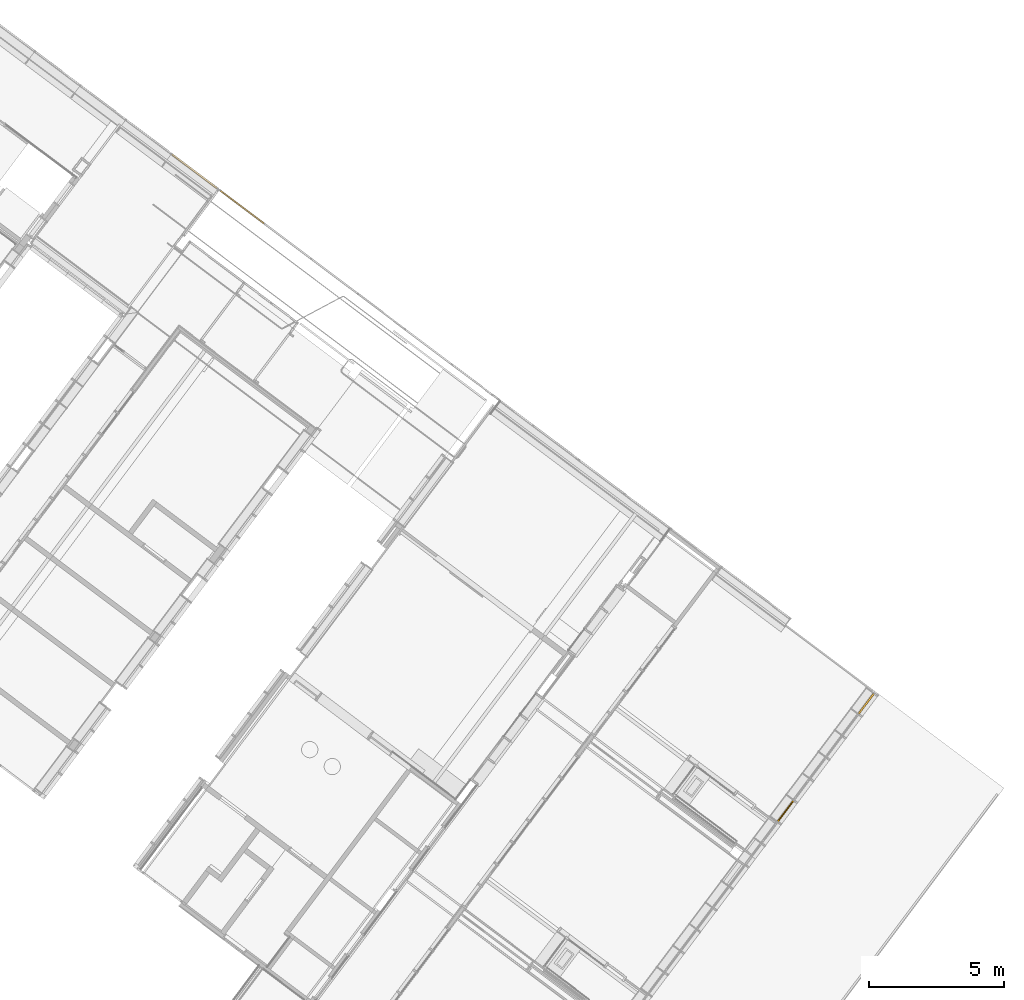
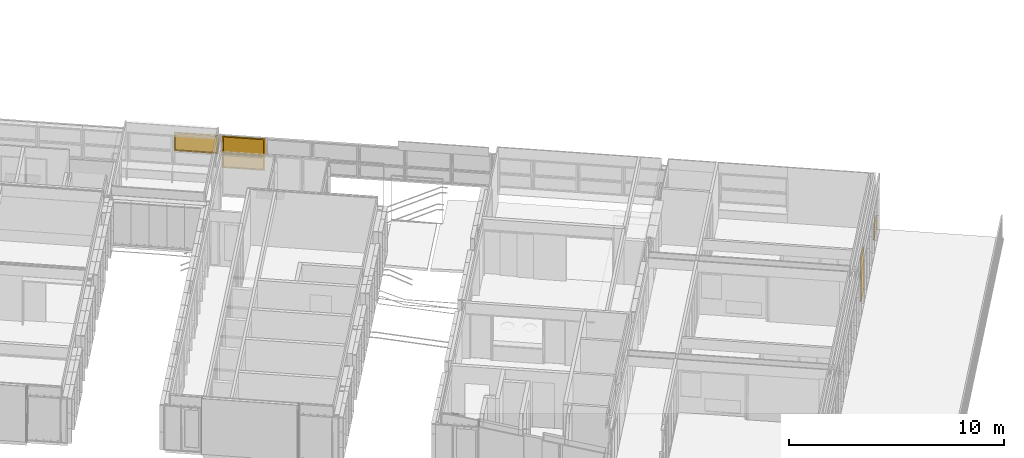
# One storey, part 240 of 243: 5 windows, 3 elements without a shape of their own.
"""IFC2X3 building model written with IfcOpenShell, lengths in metres."""

from ifc_helpers import new_model, entity, si_unit, converted_unit, derived_unit, direction, frame, origin, place, context, subcontext, project, spatial, faceted_brep, source, transform, mapped, material, material_list, type_object, type_shapes, element, aggregate, save


model = new_model("IFC2X3")

# Units and contexts
model_context = context("Model", 3, precision=1e-05, world=origin(), true_north=direction((6.123031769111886e-17, 1.0)))
body_context = subcontext(model_context, "Body", "Model", "MODEL_VIEW")
ifc_project = project(units=[si_unit("LENGTHUNIT", "METRE"), si_unit("AREAUNIT", "SQUARE_METRE"), si_unit("VOLUMEUNIT", "CUBIC_METRE"), converted_unit("PLANEANGLEUNIT", "DEGREE", entity("IfcRatioMeasure", 0.017453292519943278), si_unit("PLANEANGLEUNIT", "RADIAN"), dimensions=[0, 0, 0, 0, 0, 0, 0]), si_unit("MASSUNIT", "GRAM", prefix="KILO"), derived_unit("MASSDENSITYUNIT", [(si_unit("MASSUNIT", "GRAM", prefix="KILO"), 1), (si_unit("LENGTHUNIT", "METRE"), -3)]), derived_unit("IONCONCENTRATIONUNIT", [(si_unit("MASSUNIT", "GRAM", prefix="KILO"), 1), (si_unit("LENGTHUNIT", "METRE"), -3)]), derived_unit("MOMENTOFINERTIAUNIT", [(si_unit("LENGTHUNIT", "METRE"), 4)]), si_unit("TIMEUNIT", "SECOND"), si_unit("FREQUENCYUNIT", "HERTZ"), si_unit("THERMODYNAMICTEMPERATUREUNIT", "DEGREE_CELSIUS"), derived_unit("THERMALTRANSMITTANCEUNIT", [(si_unit("MASSUNIT", "GRAM", prefix="KILO"), 1), (si_unit("THERMODYNAMICTEMPERATUREUNIT", "KELVIN"), -1), (si_unit("TIMEUNIT", "SECOND"), -3)]), derived_unit("THERMALCONDUCTANCEUNIT", [(si_unit("MASSUNIT", "GRAM", prefix="KILO"), 1), (si_unit("THERMODYNAMICTEMPERATUREUNIT", "KELVIN"), -1), (si_unit("TIMEUNIT", "SECOND"), -3), (si_unit("LENGTHUNIT", "METRE"), 1)]), derived_unit("VOLUMETRICFLOWRATEUNIT", [(si_unit("LENGTHUNIT", "METRE"), 3), (si_unit("TIMEUNIT", "SECOND"), -1)]), derived_unit("MASSFLOWRATEUNIT", [(si_unit("MASSUNIT", "GRAM", prefix="KILO"), 1), (si_unit("TIMEUNIT", "SECOND"), -1)]), derived_unit("ROTATIONALFREQUENCYUNIT", [(si_unit("TIMEUNIT", "SECOND"), -1)]), si_unit("ELECTRICCURRENTUNIT", "AMPERE"), si_unit("ELECTRICVOLTAGEUNIT", "VOLT"), si_unit("POWERUNIT", "WATT"), si_unit("FORCEUNIT", "NEWTON", prefix="KILO"), si_unit("ILLUMINANCEUNIT", "LUX"), si_unit("LUMINOUSFLUXUNIT", "LUMEN"), si_unit("LUMINOUSINTENSITYUNIT", "CANDELA"), derived_unit("USERDEFINED", [(si_unit("MASSUNIT", "GRAM", prefix="KILO"), -1), (si_unit("LENGTHUNIT", "METRE"), -2), (si_unit("TIMEUNIT", "SECOND"), 3), (si_unit("LUMINOUSFLUXUNIT", "LUMEN"), 1)]), derived_unit("USERDEFINED", [(si_unit("MASSUNIT", "GRAM", prefix="KILO"), 1), (si_unit("TIMEUNIT", "SECOND"), -3), (si_unit("LENGTHUNIT", "METRE"), 3), (si_unit("ELECTRICCURRENTUNIT", "AMPERE"), -2)]), derived_unit("SOUNDPOWERUNIT", [(si_unit("MASSUNIT", "GRAM", prefix="KILO"), 1), (si_unit("TIMEUNIT", "SECOND"), -3), (si_unit("LENGTHUNIT", "METRE"), 2)]), derived_unit("SOUNDPRESSUREUNIT", [(si_unit("MASSUNIT", "GRAM", prefix="KILO"), 1), (si_unit("LENGTHUNIT", "METRE"), -1), (si_unit("TIMEUNIT", "SECOND"), -2)]), derived_unit("LINEARVELOCITYUNIT", [(si_unit("LENGTHUNIT", "METRE"), 1), (si_unit("TIMEUNIT", "SECOND"), -1)]), si_unit("PRESSUREUNIT", "PASCAL"), derived_unit("USERDEFINED", [(si_unit("MASSUNIT", "GRAM", prefix="KILO"), 1), (si_unit("LENGTHUNIT", "METRE"), -2), (si_unit("TIMEUNIT", "SECOND"), -2)]), derived_unit("LINEARFORCEUNIT", [(si_unit("MASSUNIT", "GRAM", prefix="KILO"), 1), (si_unit("TIMEUNIT", "SECOND"), -2)]), derived_unit("PLANARFORCEUNIT", [(si_unit("MASSUNIT", "GRAM", prefix="KILO"), 1), (si_unit("LENGTHUNIT", "METRE"), -1), (si_unit("TIMEUNIT", "SECOND"), -2)]), derived_unit("SPECIFICHEATCAPACITYUNIT", [(si_unit("THERMODYNAMICTEMPERATUREUNIT", "KELVIN"), -1), (si_unit("LENGTHUNIT", "METRE"), 2), (si_unit("TIMEUNIT", "SECOND"), -2)]), derived_unit("HEATINGVALUEUNIT", [(si_unit("LENGTHUNIT", "METRE"), 2), (si_unit("TIMEUNIT", "SECOND"), -2)]), derived_unit("VAPORPERMEABILITYUNIT", [(si_unit("LENGTHUNIT", "METRE"), -1), (si_unit("TIMEUNIT", "SECOND"), 1)]), derived_unit("DYNAMICVISCOSITYUNIT", [(si_unit("MASSUNIT", "GRAM", prefix="KILO"), 1), (si_unit("TIMEUNIT", "SECOND"), -1), (si_unit("LENGTHUNIT", "METRE"), -1)]), derived_unit("THERMALEXPANSIONCOEFFICIENTUNIT", [(si_unit("THERMODYNAMICTEMPERATUREUNIT", "KELVIN"), -1)]), derived_unit("MODULUSOFELASTICITYUNIT", [(si_unit("MASSUNIT", "GRAM", prefix="KILO"), 1), (si_unit("LENGTHUNIT", "METRE"), -1), (si_unit("TIMEUNIT", "SECOND"), -2)]), derived_unit("ISOTHERMALMOISTURECAPACITYUNIT", [(si_unit("LENGTHUNIT", "METRE"), 3), (si_unit("MASSUNIT", "GRAM", prefix="KILO"), -1)]), derived_unit("MOISTUREDIFFUSIVITYUNIT", [(si_unit("TIMEUNIT", "SECOND"), -1), (si_unit("LENGTHUNIT", "METRE"), 2)])], contexts=[model_context])

# Site, building, storey
site_placement = place(None, frame((0.0, 0.0, 235.0), z_axis=(0.0, 0.0, 1.0), x_axis=(-0.7996477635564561, 0.6004693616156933, 0.0)))
site = spatial("IfcSite", under=ifc_project, at=site_placement, Name="Default", CompositionType="ELEMENT")
building_placement = place(site_placement, origin())
building = spatial("IfcBuilding", under=site, at=building_placement, CompositionType="ELEMENT")
storey_placement = place(building_placement, origin())
storey = spatial("IfcBuildingStorey", under=building, at=storey_placement, Name="P0- Escola", CompositionType="ELEMENT", Elevation=0.0)

# Curtain wall, windows
curtain_wall_type_1 = type_object("IfcCurtainWallType", Name="Muro cortina:MC- EXT- MC2", PredefinedType="NOTDEFINED")
curtain_wall_1_placement = place(storey_placement, origin())
curtain_wall_1 = element("IfcCurtainWall", 1, at=curtain_wall_1_placement, inside=storey, type_object=curtain_wall_type_1, Name="Muro cortina:MC- EXT- MC2", ObjectType="Muro cortina:MC- EXT- MC2")
ifc_material_1 = material(Name="_Vidre")
ifc_material_2 = material(Name="_Alumini- T1- Perfil")
ifc_material_list = material_list([ifc_material_1, ifc_material_2])
window_style_1 = type_object("IfcWindowStyle", Name="MC- Alu- Conjunt vidre fix- 62x60 cm:MC- Alu- Conjunt vidre fix- 62x60 cm", ConstructionType="NOTDEFINED", OperationType="NOTDEFINED", ParameterTakesPrecedence=False, Sizeable=False, material=ifc_material_list)
shared_shape_1 = source(origin(), body_context, "Body", "Brep", [
    faceted_brep([(-0.43619328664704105, -0.007600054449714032, 0.048806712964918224), (0.43619328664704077, -0.007600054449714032, 0.048806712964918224), (0.43619328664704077, -0.03160022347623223, 0.048806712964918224), (-0.43619328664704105, -0.03160022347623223, 0.048806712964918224), (-0.43619328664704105, -0.007600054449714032, 2.4024499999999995), (0.43619328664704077, -0.007600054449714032, 2.4024499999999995), (0.43619328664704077, -0.03160022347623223, 2.4024499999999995), (-0.43619328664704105, -0.03160022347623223, 2.4024499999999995)], [[[0, 1, 2, 3]], [[4, 5, 1, 0]], [[5, 6, 2, 1]], [[6, 7, 3, 2]], [[7, 4, 0, 3]], [[4, 7, 6, 5]]]),
    faceted_brep([(-0.4849999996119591, -0.05999999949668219, 2.4514499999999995), (-0.4849999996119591, 0.0, 2.4514499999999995), (-0.4849999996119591, 0.0, 0.0), (-0.48499999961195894, -0.05999999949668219, 0.0), (-0.4221931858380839, 0.0, 2.3886431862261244), (-0.4221931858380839, 0.0, 0.06280681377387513), (0.42219318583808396, 0.0, 0.06280681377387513), (0.422193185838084, 0.0, 2.3886431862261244), (0.4849999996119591, 0.0, 2.4514499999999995), (0.4849999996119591, 0.0, 0.0), (0.48499999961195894, -0.05999999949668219, 0.0), (0.4849999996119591, -0.05999999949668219, 2.4514499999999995), (0.42219603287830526, -0.05999999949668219, 2.3886460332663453), (0.42219603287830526, -0.05999999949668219, 0.06280396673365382), (-0.42219603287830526, -0.05999999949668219, 0.06280396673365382), (-0.42219603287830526, -0.05999999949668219, 2.3886460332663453), (-0.42219603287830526, -0.03160022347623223, 2.3886460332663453), (-0.4221960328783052, -0.03160022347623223, 0.06280396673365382), (0.4221960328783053, -0.03160022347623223, 0.06280396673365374), (0.42219603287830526, -0.03160022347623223, 2.3886460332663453), (0.4361932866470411, -0.03160022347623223, 2.4026432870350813), (0.43619328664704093, -0.03160022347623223, 0.048806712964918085), (-0.4361932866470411, -0.03160022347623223, 0.04880671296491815), (-0.43619328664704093, -0.03160022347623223, 2.4026432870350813), (-0.43619328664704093, -0.007600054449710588, 2.4026432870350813), (-0.4361932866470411, -0.007600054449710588, 0.04880671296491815), (0.43619328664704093, -0.007600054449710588, 0.048806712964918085), (0.43619328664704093, -0.007600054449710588, 2.4026432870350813), (0.42219318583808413, -0.007600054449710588, 2.3886431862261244), (0.42219318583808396, -0.007600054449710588, 0.06280681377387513), (-0.42219318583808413, -0.007600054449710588, 0.06280681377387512), (-0.4221931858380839, -0.007600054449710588, 2.3886431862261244)], [[[0, 1, 2, 3]], [[4, 5, 6, 7], [8, 9, 2, 1]], [[3, 2, 9, 10]], [[0, 3, 10, 11], [12, 13, 14, 15]], [[16, 15, 14, 17]], [[17, 14, 13, 18]], [[16, 17, 18, 19], [20, 21, 22, 23]], [[24, 23, 22, 25]], [[25, 22, 21, 26]], [[24, 25, 26, 27], [28, 29, 30, 31]], [[4, 31, 30, 5]], [[5, 30, 29, 6]], [[10, 9, 8, 11]], [[18, 13, 12, 19]], [[26, 21, 20, 27]], [[6, 29, 28, 7]], [[11, 8, 1, 0]], [[19, 12, 15, 16]], [[27, 20, 23, 24]], [[7, 28, 31, 4]]], outer=[[True], [False, True], [True], [True, False], [True], [True], [False, True], [True], [True], [True, False], [True], [True], [True], [True], [True], [True], [True], [True], [True], [True]]),
])
type_shapes(window_style_1, [shared_shape_1])
window_1_placement = place(curtain_wall_1_placement, frame((5.885147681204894, -36.490191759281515, 0.03229999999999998), z_axis=(0.0, 0.0, 1.0), x_axis=(0.0, 1.0, 0.0)))
window_1 = element("IfcWindow", 2, at=window_1_placement, type_object=window_style_1, material=ifc_material_list, Name="MC- Alu- Conjunt vidre fix- 62x60 cm:MC- Alu- Conjunt vidre fix- 62x60 cm", ObjectType="MC- Alu- Conjunt vidre fix- 62x60 cm:MC- Alu- Conjunt vidre fix- 62x60 cm", OverallHeight=2.4514499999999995, OverallWidth=0.9699999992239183, context=body_context, shape_type="MappedRepresentation", body=[
    mapped(shared_shape_1, transform((0.0, 0.0, 0.0), scale=1.0)),
])
window_style_2 = type_object("IfcWindowStyle", Name="MC- Alu- Conjunt vidre fix- 62x60 cm:MC- Alu- Conjunt vidre fix- 62x60 cm", ConstructionType="NOTDEFINED", OperationType="NOTDEFINED", ParameterTakesPrecedence=False, Sizeable=False, material=ifc_material_list)
shared_shape_2 = source(origin(), body_context, "Body", "Brep", [
    faceted_brep([(0.41806738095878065, -0.007600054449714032, 0.048806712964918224), (0.41806738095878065, -0.03160022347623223, 0.048806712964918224), (-0.4180673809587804, -0.03160022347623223, 0.048806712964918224), (-0.4180673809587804, -0.007600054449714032, 0.048806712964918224), (0.41806738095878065, -0.007600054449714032, 0.7386999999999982), (-0.4180673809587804, -0.007600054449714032, 0.7386999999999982), (-0.4180673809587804, -0.03160022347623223, 0.7386999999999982), (0.41806738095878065, -0.03160022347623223, 0.7386999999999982)], [[[0, 1, 2, 3]], [[4, 0, 3, 5]], [[5, 3, 2, 6]], [[6, 2, 1, 7]], [[7, 1, 0, 4]], [[4, 5, 6, 7]]]),
    faceted_brep([(0.4668740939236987, -0.05999999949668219, 0.7876999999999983), (0.4668740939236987, -0.05999999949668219, 0.0), (0.4668740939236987, 0.0, 0.0), (0.4668740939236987, 0.0, 0.7876999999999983), (-0.4668740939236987, 0.0, 0.7876999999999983), (-0.4668740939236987, 0.0, 0.0), (0.4040672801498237, 0.0, 0.7248931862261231), (-0.4040672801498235, 0.0, 0.724893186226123), (-0.4040672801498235, 0.0, 0.06280681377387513), (0.4040672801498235, 0.0, 0.06280681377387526), (-0.4668740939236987, -0.05999999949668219, 0.0), (-0.4668740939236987, -0.05999999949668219, 0.7876999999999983), (-0.40407012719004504, -0.05999999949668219, 0.7248960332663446), (0.40407012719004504, -0.05999999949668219, 0.7248960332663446), (0.40407012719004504, -0.05999999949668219, 0.0628039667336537), (-0.40407012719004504, -0.05999999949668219, 0.0628039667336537), (0.404070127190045, -0.03160022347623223, 0.7248960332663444), (0.40407012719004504, -0.03160022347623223, 0.0628039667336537), (-0.40407012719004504, -0.03160022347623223, 0.0628039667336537), (-0.40407012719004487, -0.03160022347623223, 0.7248960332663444), (-0.4180673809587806, -0.03160022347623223, 0.7388932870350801), (0.4180673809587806, -0.03160022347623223, 0.7388932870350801), (0.4180673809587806, -0.03160022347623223, 0.048806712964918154), (-0.4180673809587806, -0.03160022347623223, 0.04880671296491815), (0.4180673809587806, -0.007600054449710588, 0.7388932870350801), (0.4180673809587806, -0.007600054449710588, 0.04880671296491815), (-0.4180673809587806, -0.007600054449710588, 0.048806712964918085), (-0.4180673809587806, -0.007600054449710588, 0.7388932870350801), (-0.40406728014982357, -0.007600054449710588, 0.7248931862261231), (0.40406728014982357, -0.007600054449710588, 0.7248931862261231), (0.40406728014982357, -0.007600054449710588, 0.06280681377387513), (-0.40406728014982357, -0.007600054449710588, 0.06280681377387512)], [[[0, 1, 2, 3]], [[4, 3, 2, 5], [6, 7, 8, 9]], [[1, 10, 5, 2]], [[0, 11, 10, 1], [12, 13, 14, 15]], [[16, 17, 14, 13]], [[17, 18, 15, 14]], [[16, 19, 18, 17], [20, 21, 22, 23]], [[24, 25, 22, 21]], [[25, 26, 23, 22]], [[24, 27, 26, 25], [28, 29, 30, 31]], [[6, 9, 30, 29]], [[9, 8, 31, 30]], [[10, 11, 4, 5]], [[18, 19, 12, 15]], [[26, 27, 20, 23]], [[8, 7, 28, 31]], [[11, 0, 3, 4]], [[19, 16, 13, 12]], [[27, 24, 21, 20]], [[7, 6, 29, 28]]], outer=[[True], [True, False], [True], [True, False], [True], [True], [False, True], [True], [True], [True, False], [True], [True], [True], [True], [True], [True], [True], [True], [True], [True]]),
])
type_shapes(window_style_2, [shared_shape_2])
window_2_placement = place(curtain_wall_1_placement, frame((5.885147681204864, -41.47206585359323, 0.03229999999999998), z_axis=(0.0, 0.0, 1.0), x_axis=(0.0, 1.0, 0.0)))
window_2 = element("IfcWindow", 3, at=window_2_placement, type_object=window_style_2, material=ifc_material_list, Name="MC- Alu- Conjunt vidre fix- 62x60 cm:MC- Alu- Conjunt vidre fix- 62x60 cm", ObjectType="MC- Alu- Conjunt vidre fix- 62x60 cm:MC- Alu- Conjunt vidre fix- 62x60 cm", OverallHeight=0.7876999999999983, OverallWidth=0.9337481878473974, context=body_context, shape_type="MappedRepresentation", body=[
    mapped(shared_shape_2, transform((0.0, 0.0, 0.0), scale=1.0)),
])
aggregate(curtain_wall_1, [window_1, window_2])

# Curtain wall, window
curtain_wall_type_2 = type_object("IfcCurtainWallType", Name="Muro cortina:MC- EXT- MC6", PredefinedType="NOTDEFINED")
curtain_wall_2_placement = place(storey_placement, origin())
curtain_wall_2 = element("IfcCurtainWall", 4, at=curtain_wall_2_placement, inside=storey, type_object=curtain_wall_type_2, Name="Muro cortina:MC- EXT- MC6", ObjectType="Muro cortina:MC- EXT- MC6")
window_style_3 = type_object("IfcWindowStyle", Name="MC- Alu- Conjunt finestra basculant- 68x68 cm:MC- Alu- Conjunt finestra basculant- 68x68 cm", ConstructionType="NOTDEFINED", OperationType="NOTDEFINED", ParameterTakesPrecedence=False, Sizeable=False, material=ifc_material_list)
shared_shape_3 = source(origin(), body_context, "Body", "Brep", [
    faceted_brep([(0.9959096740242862, -0.03559830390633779, 0.051999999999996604), (-0.9959096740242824, -0.035598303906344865, 0.051999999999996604), (-0.9959096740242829, -0.011598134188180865, 0.051999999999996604), (0.9959096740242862, -0.011598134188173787, 0.051999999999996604), (0.9959096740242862, -0.03559830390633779, 0.9953027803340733), (0.9959096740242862, -0.011598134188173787, 0.9953027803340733), (-0.9959096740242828, -0.011598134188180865, 0.9953027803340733), (-0.9959096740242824, -0.035598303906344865, 0.9953027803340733)], [[[0, 1, 2, 3]], [[4, 0, 3, 5]], [[5, 3, 2, 6]], [[6, 2, 1, 7]], [[7, 1, 0, 4]], [[4, 5, 6, 7]]]),
    faceted_brep([(-0.9802088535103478, -0.009998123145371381, 0.9796019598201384), (-0.9802088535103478, -0.009998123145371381, 0.06789804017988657), (-0.9802088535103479, -0.007998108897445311, 0.06789804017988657), (-0.9802088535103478, -0.007998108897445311, 0.9796019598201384), (-1.0091068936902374, -0.007998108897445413, 1.0085000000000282), (1.0091068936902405, -0.007998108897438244, 1.0085000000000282), (1.0091068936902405, -0.007998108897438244, 0.03899999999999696), (-1.0091068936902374, -0.007998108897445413, 0.03899999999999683), (0.980208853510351, -0.007998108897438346, 0.9796019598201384), (0.980208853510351, -0.007998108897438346, 0.06789804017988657), (0.980208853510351, -0.009998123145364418, 0.06789804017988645), (0.980208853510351, -0.009998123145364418, 0.9796019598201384), (0.9959096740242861, -0.00999812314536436, 0.9953027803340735), (-0.9959096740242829, -0.009998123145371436, 0.9953027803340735), (-0.9959096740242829, -0.009998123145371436, 0.05219721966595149), (0.9959096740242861, -0.00999812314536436, 0.052197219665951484), (-0.9959096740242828, -0.040799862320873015, 0.9953027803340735), (-0.9959096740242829, -0.040799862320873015, 0.052197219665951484), (0.9959096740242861, -0.04079986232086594, 0.052197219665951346), (0.9959096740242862, -0.040799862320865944, 0.9953027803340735), (0.9802088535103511, -0.04079986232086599, 0.9796019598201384), (-0.9802088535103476, -0.04079986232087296, 0.9796019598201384), (-0.9802088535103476, -0.04079986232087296, 0.06789804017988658), (0.9802088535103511, -0.04079986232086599, 0.06789804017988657), (-0.9802088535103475, -0.06800005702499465, 0.9796019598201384), (-0.9802088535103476, -0.06800005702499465, 0.06789804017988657), (0.9802088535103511, -0.06800005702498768, 0.06789804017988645), (0.9802088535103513, -0.06800005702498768, 0.9796019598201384), (1.026610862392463, -0.06800005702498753, 1.0260039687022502), (-1.0266108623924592, -0.06800005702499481, 1.0260039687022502), (-1.0266108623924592, -0.06800005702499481, 0.021496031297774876), (1.026610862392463, -0.06800005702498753, 0.02149603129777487), (-1.0266108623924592, -0.06450003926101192, 1.0260039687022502), (-1.0266108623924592, -0.06450003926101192, 0.02149603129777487), (1.026610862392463, -0.06450003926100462, 0.02149603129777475), (1.0266108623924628, -0.06450003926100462, 1.0260039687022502), (1.0091068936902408, -0.06450003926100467, 1.0085000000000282), (-1.0091068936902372, -0.06450003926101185, 1.0085000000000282), (-1.0091068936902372, -0.06450003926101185, 0.03899999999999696), (1.0091068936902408, -0.06450003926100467, 0.038999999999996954)], [[[0, 1, 2, 3]], [[4, 5, 6, 7], [8, 3, 2, 9]], [[1, 10, 9, 2]], [[0, 11, 10, 1], [12, 13, 14, 15]], [[16, 17, 14, 13]], [[17, 18, 15, 14]], [[16, 19, 18, 17], [20, 21, 22, 23]], [[24, 25, 22, 21]], [[25, 26, 23, 22]], [[24, 27, 26, 25], [28, 29, 30, 31]], [[32, 33, 30, 29]], [[33, 34, 31, 30]], [[32, 35, 34, 33], [36, 37, 38, 39]], [[4, 7, 38, 37]], [[7, 6, 39, 38]], [[10, 11, 8, 9]], [[18, 19, 12, 15]], [[26, 27, 20, 23]], [[34, 35, 28, 31]], [[6, 5, 36, 39]], [[11, 0, 3, 8]], [[19, 16, 13, 12]], [[27, 24, 21, 20]], [[35, 32, 29, 28]], [[5, 4, 37, 36]]], outer=[[True], [True, False], [True], [False, True], [True], [True], [True, False], [True], [True], [False, True], [True], [True], [True, False], [True], [True], [True], [True], [True], [True], [True], [True], [True], [True], [True], [True]]),
    faceted_brep([(0.9851911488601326, 0.0, 0.9846931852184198), (0.9851911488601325, 0.0, 0.06280681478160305), (0.9851911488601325, -0.0040000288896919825, 0.06280681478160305), (0.9851911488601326, -0.0040000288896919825, 0.98469318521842), (-0.9851911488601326, -0.0040000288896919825, 0.9846931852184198), (-0.9851911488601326, -0.0040000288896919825, 0.06280681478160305), (1.0205977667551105, -0.0040000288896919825, 1.0200998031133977), (-1.0205977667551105, -0.0040000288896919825, 1.0200998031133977), (-1.0205977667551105, -0.0040000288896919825, 0.027400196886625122), (1.0205977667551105, -0.0040000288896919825, 0.02740019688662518), (-0.9851911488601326, 0.0, 0.06280681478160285), (-0.9851911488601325, 0.0, 0.9846931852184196), (-1.0479979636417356, 0.0, 1.0475000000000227), (1.0479979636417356, 0.0, 1.0475000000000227), (1.0479979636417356, 0.0, 0.0), (-1.0479979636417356, 0.0, 0.0), (1.0479979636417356, -0.05999999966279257, 1.0475000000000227), (1.0479979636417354, -0.05999999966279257, 0.0), (-1.0479979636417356, -0.05999999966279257, 0.0), (-1.0479979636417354, -0.05999999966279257, 1.0475000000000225), (-1.0205977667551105, -0.05999999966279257, 1.0200998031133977), (1.0205977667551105, -0.05999999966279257, 1.0200998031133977), (1.0205977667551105, -0.05999999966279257, 0.027400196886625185), (-1.0205977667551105, -0.05999999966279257, 0.02740019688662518)], [[[0, 1, 2, 3]], [[4, 3, 2, 5], [6, 7, 8, 9]], [[1, 10, 5, 2]], [[0, 11, 10, 1], [12, 13, 14, 15]], [[16, 17, 14, 13]], [[17, 18, 15, 14]], [[16, 19, 18, 17], [20, 21, 22, 23]], [[6, 9, 22, 21]], [[9, 8, 23, 22]], [[10, 11, 4, 5]], [[18, 19, 12, 15]], [[8, 7, 20, 23]], [[11, 0, 3, 4]], [[19, 16, 13, 12]], [[7, 6, 21, 20]]], outer=[[True], [False, True], [True], [False, True], [True], [True], [True, False], [True], [True], [True], [True], [True], [True], [True], [True]]),
])
type_shapes(window_style_3, [shared_shape_3])
window_3_placement = place(curtain_wall_2_placement, frame((37.7431456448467, -42.34019175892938, 1.455), z_axis=(0.0, 0.0, 1.0), x_axis=(-1.0, 0.0, 0.0)))
window_3 = element("IfcWindow", 5, at=window_3_placement, type_object=window_style_3, material=ifc_material_list, Name="MC- Alu- Conjunt finestra basculant- 68x68 cm:MC- Alu- Conjunt finestra basculant- 68x68 cm", ObjectType="MC- Alu- Conjunt finestra basculant- 68x68 cm:MC- Alu- Conjunt finestra basculant- 68x68 cm", OverallHeight=1.0475000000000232, OverallWidth=2.0959959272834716, context=body_context, shape_type="MappedRepresentation", body=[
    mapped(shared_shape_3, transform((0.0, 0.0, 0.0), scale=1.0)),
])
aggregate(curtain_wall_2, [window_3])

# Curtain wall, windows
curtain_wall_type_3 = type_object("IfcCurtainWallType", Name="Muro cortina:MC- EXT- MC9", PredefinedType="NOTDEFINED")
curtain_wall_3_placement = place(storey_placement, origin())
curtain_wall_3 = element("IfcCurtainWall", 6, at=curtain_wall_3_placement, inside=storey, type_object=curtain_wall_type_3, Name="Muro cortina:MC- EXT- MC9", ObjectType="Muro cortina:MC- EXT- MC9")
window_style_4 = type_object("IfcWindowStyle", Name="MC- Alu- Conjunt vidre fix- 62x60 cm:MC- Alu- Conjunt vidre fix- 62x60 cm", ConstructionType="NOTDEFINED", OperationType="NOTDEFINED", ParameterTakesPrecedence=False, Sizeable=False, material=ifc_material_list)
shared_shape_4 = source(origin(), body_context, "Body", "Brep", [
    faceted_brep([(0.955195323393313, -0.007600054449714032, 0.048806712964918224), (0.9551953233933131, -0.03160022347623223, 0.048806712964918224), (-0.9551953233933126, -0.03160022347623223, 0.048806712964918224), (-0.9551953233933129, -0.007600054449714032, 0.048806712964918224), (0.955195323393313, -0.007600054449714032, 0.7160000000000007), (-0.9551953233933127, -0.007600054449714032, 0.7160000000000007), (-0.9551953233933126, -0.03160022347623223, 0.7160000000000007), (0.9551953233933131, -0.03160022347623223, 0.7160000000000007)], [[[0, 1, 2, 3]], [[4, 0, 3, 5]], [[5, 3, 2, 6]], [[6, 2, 1, 7]], [[7, 1, 0, 4]], [[4, 5, 6, 7]]]),
    faceted_brep([(1.004002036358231, -0.05999999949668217, 0.7650000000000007), (1.004002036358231, -0.05999999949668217, 0.0), (1.004002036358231, 0.0, 0.0), (1.004002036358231, 0.0, 0.7650000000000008), (-1.004002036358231, 0.0, 0.7650000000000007), (-1.004002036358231, 0.0, 0.0), (0.941195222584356, 0.0, 0.7021931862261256), (-0.941195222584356, 0.0, 0.7021931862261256), (-0.941195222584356, 0.0, 0.06280681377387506), (0.941195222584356, 0.0, 0.06280681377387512), (-1.004002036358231, -0.05999999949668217, 0.0), (-1.004002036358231, -0.05999999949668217, 0.7650000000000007), (-0.9411980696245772, -0.05999999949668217, 0.7021960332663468), (0.9411980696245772, -0.05999999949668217, 0.7021960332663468), (0.9411980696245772, -0.05999999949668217, 0.06280396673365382), (-0.9411980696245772, -0.05999999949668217, 0.06280396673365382), (0.9411980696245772, -0.03160022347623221, 0.7021960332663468), (0.9411980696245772, -0.03160022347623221, 0.06280396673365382), (-0.9411980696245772, -0.03160022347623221, 0.0628039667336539), (-0.9411980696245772, -0.03160022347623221, 0.7021960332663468), (-0.9551953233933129, -0.03160022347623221, 0.7161932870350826), (0.9551953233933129, -0.03160022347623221, 0.7161932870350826), (0.9551953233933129, -0.03160022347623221, 0.048806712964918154), (-0.9551953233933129, -0.03160022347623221, 0.04880671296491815), (0.9551953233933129, -0.007600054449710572, 0.7161932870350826), (0.9551953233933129, -0.007600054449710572, 0.04880671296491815), (-0.9551953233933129, -0.007600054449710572, 0.048806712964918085), (-0.9551953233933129, -0.007600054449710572, 0.7161932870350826), (-0.941195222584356, -0.007600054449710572, 0.7021931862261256), (0.941195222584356, -0.007600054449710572, 0.7021931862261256), (0.941195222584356, -0.007600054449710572, 0.06280681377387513), (-0.941195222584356, -0.007600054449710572, 0.06280681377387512)], [[[0, 1, 2, 3]], [[4, 3, 2, 5], [6, 7, 8, 9]], [[1, 10, 5, 2]], [[0, 11, 10, 1], [12, 13, 14, 15]], [[16, 17, 14, 13]], [[17, 18, 15, 14]], [[16, 19, 18, 17], [20, 21, 22, 23]], [[24, 25, 22, 21]], [[25, 26, 23, 22]], [[24, 27, 26, 25], [28, 29, 30, 31]], [[6, 9, 30, 29]], [[9, 8, 31, 30]], [[10, 11, 4, 5]], [[18, 19, 12, 15]], [[26, 27, 20, 23]], [[8, 7, 28, 31]], [[11, 0, 3, 4]], [[19, 16, 13, 12]], [[27, 24, 21, 20]], [[7, 6, 29, 28]]], outer=[[True], [True, False], [True], [True, False], [True], [True], [False, True], [True], [True], [True, False], [True], [True], [True], [True], [True], [True], [True], [True], [True], [True]]),
])
type_shapes(window_style_4, [shared_shape_4])
window_4_placement = place(curtain_wall_3_placement, frame((35.531145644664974, -42.34019175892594, 0.685), z_axis=(0.0, 0.0, 1.0), x_axis=(-1.0, 0.0, 0.0)))
window_4 = element("IfcWindow", 7, at=window_4_placement, type_object=window_style_4, material=ifc_material_list, Name="MC- Alu- Conjunt vidre fix- 62x60 cm:MC- Alu- Conjunt vidre fix- 62x60 cm", ObjectType="MC- Alu- Conjunt vidre fix- 62x60 cm:MC- Alu- Conjunt vidre fix- 62x60 cm", OverallHeight=0.765000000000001, OverallWidth=2.008004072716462, context=body_context, shape_type="MappedRepresentation", body=[
    mapped(shared_shape_4, transform((0.0, 0.0, 0.0), scale=1.0)),
])
window_style_5 = type_object("IfcWindowStyle", Name="MC- Alu- Conjunt vidre fix- 62x60 cm:MC- Alu- Conjunt vidre fix- 62x60 cm", ConstructionType="NOTDEFINED", OperationType="NOTDEFINED", ParameterTakesPrecedence=False, Sizeable=False, material=ifc_material_list)
shared_shape_5 = source(origin(), body_context, "Body", "Brep", [
    faceted_brep([(0.955195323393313, -0.007600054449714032, 0.048806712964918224), (0.9551953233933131, -0.03160022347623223, 0.048806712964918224), (-0.9551953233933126, -0.03160022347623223, 0.048806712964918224), (-0.9551953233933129, -0.007600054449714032, 0.048806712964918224), (0.955195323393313, -0.007600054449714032, 1.003500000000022), (-0.9551953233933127, -0.007600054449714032, 1.003500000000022), (-0.9551953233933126, -0.03160022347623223, 1.003500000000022), (0.9551953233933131, -0.03160022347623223, 1.003500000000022)], [[[0, 1, 2, 3]], [[4, 0, 3, 5]], [[5, 3, 2, 6]], [[6, 2, 1, 7]], [[7, 1, 0, 4]], [[4, 5, 6, 7]]]),
    faceted_brep([(1.0040020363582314, -0.05999999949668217, 1.052500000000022), (1.004002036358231, -0.05999999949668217, 0.0), (1.004002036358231, 0.0, 0.0), (1.004002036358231, 0.0, 1.0525000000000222), (-1.004002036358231, 0.0, 1.052500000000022), (-1.004002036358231, 0.0, 0.0), (0.941195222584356, 0.0, 0.9896931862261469), (-0.9411952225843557, 0.0, 0.9896931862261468), (-0.941195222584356, 0.0, 0.06280681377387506), (0.941195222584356, 0.0, 0.06280681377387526), (-1.004002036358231, -0.05999999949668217, 0.0), (-1.004002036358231, -0.05999999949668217, 1.0525000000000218), (-0.9411980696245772, -0.05999999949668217, 0.9896960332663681), (0.9411980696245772, -0.05999999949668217, 0.9896960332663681), (0.9411980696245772, -0.05999999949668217, 0.06280396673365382), (-0.9411980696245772, -0.05999999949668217, 0.06280396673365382), (0.9411980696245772, -0.03160022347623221, 0.9896960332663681), (0.9411980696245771, -0.03160022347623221, 0.06280396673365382), (-0.9411980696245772, -0.03160022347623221, 0.0628039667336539), (-0.9411980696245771, -0.03160022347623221, 0.989696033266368), (-0.9551953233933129, -0.03160022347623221, 1.0036932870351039), (0.9551953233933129, -0.03160022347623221, 1.0036932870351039), (0.9551953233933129, -0.03160022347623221, 0.048806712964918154), (-0.9551953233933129, -0.03160022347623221, 0.04880671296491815), (0.9551953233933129, -0.007600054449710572, 1.0036932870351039), (0.9551953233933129, -0.007600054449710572, 0.04880671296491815), (-0.9551953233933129, -0.007600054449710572, 0.048806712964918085), (-0.9551953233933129, -0.007600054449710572, 1.0036932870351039), (-0.941195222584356, -0.007600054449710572, 0.9896931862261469), (0.941195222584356, -0.007600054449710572, 0.9896931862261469), (0.941195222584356, -0.007600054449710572, 0.06280681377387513), (-0.941195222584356, -0.007600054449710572, 0.06280681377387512)], [[[0, 1, 2, 3]], [[4, 3, 2, 5], [6, 7, 8, 9]], [[1, 10, 5, 2]], [[0, 11, 10, 1], [12, 13, 14, 15]], [[16, 17, 14, 13]], [[17, 18, 15, 14]], [[16, 19, 18, 17], [20, 21, 22, 23]], [[24, 25, 22, 21]], [[25, 26, 23, 22]], [[24, 27, 26, 25], [28, 29, 30, 31]], [[6, 9, 30, 29]], [[9, 8, 31, 30]], [[10, 11, 4, 5]], [[18, 19, 12, 15]], [[26, 27, 20, 23]], [[8, 7, 28, 31]], [[11, 0, 3, 4]], [[19, 16, 13, 12]], [[27, 24, 21, 20]], [[7, 6, 29, 28]]], outer=[[True], [True, False], [True], [True, False], [True], [True], [False, True], [True], [True], [True, False], [True], [True], [True], [True], [True], [True], [True], [True], [True], [True]]),
])
type_shapes(window_style_5, [shared_shape_5])
window_5_placement = place(curtain_wall_3_placement, frame((35.531145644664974, -42.34019175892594, 1.4500000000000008), z_axis=(0.0, 0.0, 1.0), x_axis=(-1.0, 0.0, 0.0)))
window_5 = element("IfcWindow", 8, at=window_5_placement, type_object=window_style_5, material=ifc_material_list, Name="MC- Alu- Conjunt vidre fix- 62x60 cm:MC- Alu- Conjunt vidre fix- 62x60 cm", ObjectType="MC- Alu- Conjunt vidre fix- 62x60 cm:MC- Alu- Conjunt vidre fix- 62x60 cm", OverallHeight=1.0525000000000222, OverallWidth=2.0080040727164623, context=body_context, shape_type="MappedRepresentation", body=[
    mapped(shared_shape_5, transform((0.0, 0.0, 0.0), scale=1.0)),
])
aggregate(curtain_wall_3, [window_4, window_5])

save(model, "model.ifc")
